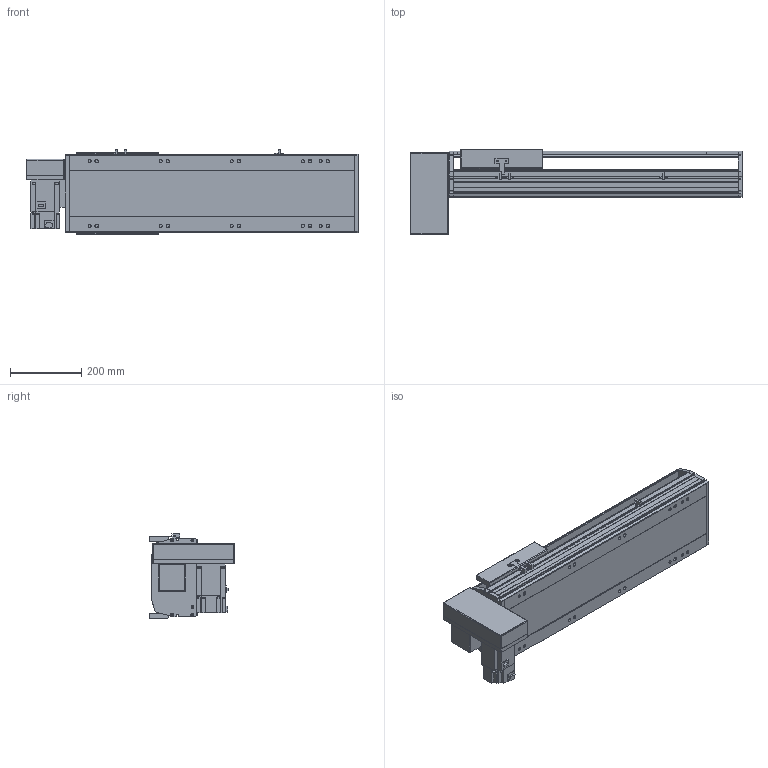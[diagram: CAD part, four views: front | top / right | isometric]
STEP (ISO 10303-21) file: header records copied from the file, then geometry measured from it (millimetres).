
FILE_DESCRIPTION(/* description */ ('STEP AP214'),/* implementation_level */ '2;1');
FILE_NAME(/* name */ 'PBS220-P40-S450-RD-T75-C1-N(0)',/* time_stamp */ '2022-06-13T02:41:00+02:00',/* author */ ('License CC BY-ND 4.0'),/* organization */ ('CADENAS'),/* preprocessor_version */ 'ST-DEVELOPER v18.102',/* originating_system */ 'PARTsolutions',/* authorisation */ ' ');
FILE_SCHEMA (('AUTOMOTIVE_DESIGN {1 0 10303 214 3 1 1}'));
Length unit declared in the file: millimetre
Products named in the file (7): PBS220-P40-S450-RD-T75-C1-N(0); PBS220_sensor; PBS220_plant; PBS220_sliser; T75-p1; PBS220T-RD_motors; PBS220-S450()_body
Assembly tree (8 placements, depth 2):
  PBS220-P40-S450-RD-T75-C1-N(0)
    PBS220_sensor  x3
    PBS220_plant
    PBS220_sliser
    T75-p1
    PBS220T-RD_motors
    PBS220-S450()_body
Bounding box: 934 x 239 x 238.5 mm (x, y, z)
Volume: 14045531.7 mm3; surface area: 1471473.8 mm2
Topology: 8 solids, 8 shells, 878 faces, 2312 edges, 1504 vertices
Faces by surface type: plane 586, cylinder 258, cone 34
Full cylindrical faces by diameter (mm): 2.013 x4, 4.5 x14, 4.917 x4, 6 x7, 6.647 x8, 8 x10, 8.376 x10, 8.5 x10, 10 x6, 14 x10, 38 x2, 40 x1, 70 x1
Entity records: 24693 total; most frequent: CARTESIAN_POINT 4294, DIRECTION 4293, ORIENTED_EDGE 3998, EDGE_CURVE 1999, AXIS2_PLACEMENT_3D 1477, VERTEX_POINT 1368, LINE 1339, VECTOR 1339
